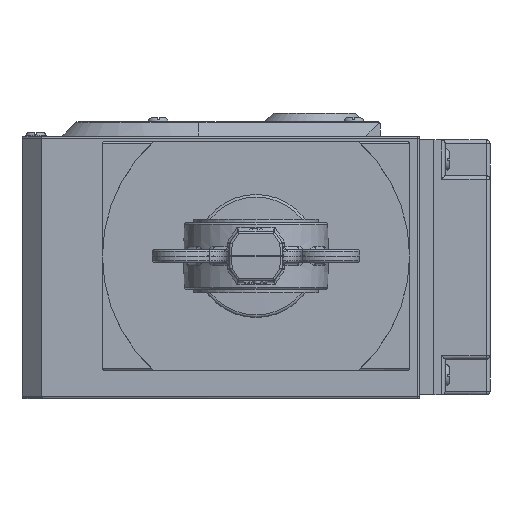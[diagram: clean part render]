
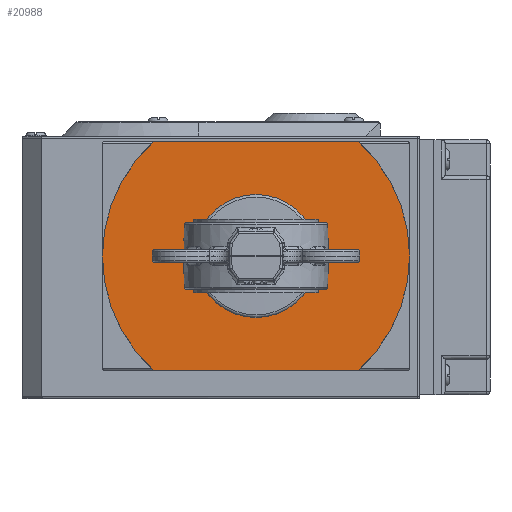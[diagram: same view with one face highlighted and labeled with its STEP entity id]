
A CAD part, front view. The second image highlights one B-rep face of the part: STEP entity #20988.
In plain terms, the highlighted planar face has unit normal (0, -1, 0).
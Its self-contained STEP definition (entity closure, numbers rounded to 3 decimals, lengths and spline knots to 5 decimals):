
#1700=CIRCLE('',#22537,0.084);
#1955=CIRCLE('',#23171,0.084);
#1956=CIRCLE('',#23173,0.001);
#1957=CIRCLE('',#23174,0.001);
#1958=CIRCLE('',#23175,0.001);
#1959=CIRCLE('',#23176,0.001);
#3078=LINE('',#57321,#4557);
#3092=LINE('',#57353,#4571);
#4557=VECTOR('',#26835,0.11143);
#4571=VECTOR('',#26859,0.11143);
#5635=PLANE('',#23172);
#6837=FACE_OUTER_BOUND('',#8116,.T.);
#8116=EDGE_LOOP('',(#19693,#19694,#19695,#19696,#19697,#19698,#19699,#19700));
#9998=VERTEX_POINT('',#57318);
#9999=VERTEX_POINT('',#57320);
#10011=VERTEX_POINT('',#57350);
#10012=VERTEX_POINT('',#57352);
#10016=VERTEX_POINT('',#57365);
#10017=VERTEX_POINT('',#57366);
#10574=VERTEX_POINT('',#61007);
#10575=VERTEX_POINT('',#61008);
#12709=EDGE_CURVE('',#9999,#9998,#3078,.T.);
#12725=EDGE_CURVE('',#10012,#10011,#3092,.T.);
#12732=EDGE_CURVE('',#10016,#10017,#1700,.T.);
#13618=EDGE_CURVE('',#10574,#10575,#1955,.T.);
#13623=EDGE_CURVE('',#10011,#10574,#1956,.F.);
#13624=EDGE_CURVE('',#10575,#9999,#1957,.F.);
#13625=EDGE_CURVE('',#9998,#10016,#1958,.F.);
#13626=EDGE_CURVE('',#10017,#10012,#1959,.F.);
#19693=ORIENTED_EDGE('',*,*,#12725,.T.);
#19694=ORIENTED_EDGE('',*,*,#13623,.T.);
#19695=ORIENTED_EDGE('',*,*,#13618,.T.);
#19696=ORIENTED_EDGE('',*,*,#13624,.T.);
#19697=ORIENTED_EDGE('',*,*,#12709,.T.);
#19698=ORIENTED_EDGE('',*,*,#13625,.T.);
#19699=ORIENTED_EDGE('',*,*,#12732,.T.);
#19700=ORIENTED_EDGE('',*,*,#13626,.T.);
#20988=ADVANCED_FACE('',(#6837),#5635,.F.);
#22537=AXIS2_PLACEMENT_3D('',#57367,#26872,#26873);
#23171=AXIS2_PLACEMENT_3D('',#61009,#28622,#28623);
#23172=AXIS2_PLACEMENT_3D('',#61026,#28626,#28627);
#23173=AXIS2_PLACEMENT_3D('',#61027,#28628,#28629);
#23174=AXIS2_PLACEMENT_3D('',#61028,#28630,#28631);
#23175=AXIS2_PLACEMENT_3D('',#61029,#28632,#28633);
#23176=AXIS2_PLACEMENT_3D('',#61030,#28634,#28635);
#26835=DIRECTION('',(1.,0.,0.));
#26859=DIRECTION('',(-1.,0.,0.));
#26872=DIRECTION('center_axis',(0.,-1.,0.));
#26873=DIRECTION('ref_axis',(1.,0.,0.));
#28622=DIRECTION('center_axis',(0.,-1.,0.));
#28623=DIRECTION('ref_axis',(1.,0.,0.));
#28626=DIRECTION('center_axis',(0.,1.,0.));
#28627=DIRECTION('ref_axis',(0.,0.,1.));
#28628=DIRECTION('center_axis',(0.,1.,0.));
#28629=DIRECTION('ref_axis',(-1.,0.,0.));
#28630=DIRECTION('center_axis',(0.,1.,0.));
#28631=DIRECTION('ref_axis',(-1.,0.,0.));
#28632=DIRECTION('center_axis',(0.,1.,0.));
#28633=DIRECTION('ref_axis',(-1.,0.,0.));
#28634=DIRECTION('center_axis',(0.,1.,0.));
#28635=DIRECTION('ref_axis',(-1.,0.,0.));
#57318=CARTESIAN_POINT('',(0.05572,-0.10875,-0.06252));
#57320=CARTESIAN_POINT('',(-0.05572,-0.10875,-0.06252));
#57321=CARTESIAN_POINT('',(-0.05572,-0.10875,-0.06252));
#57350=CARTESIAN_POINT('',(-0.05572,-0.10875,0.06252));
#57352=CARTESIAN_POINT('',(0.05572,-0.10875,0.06252));
#57353=CARTESIAN_POINT('',(0.05572,-0.10875,0.06252));
#57365=CARTESIAN_POINT('',(0.05639,-0.10875,-0.06226));
#57366=CARTESIAN_POINT('',(0.05639,-0.10875,0.06226));
#57367=CARTESIAN_POINT('Origin',(0.,-0.10875,0.));
#61007=CARTESIAN_POINT('',(-0.05639,-0.10875,0.06226));
#61008=CARTESIAN_POINT('',(-0.05639,-0.10875,-0.06226));
#61009=CARTESIAN_POINT('Origin',(0.,-0.10875,0.));
#61026=CARTESIAN_POINT('Origin',(0.,-0.10875,0.));
#61027=CARTESIAN_POINT('Origin',(-0.05572,-0.10875,0.06152));
#61028=CARTESIAN_POINT('Origin',(-0.05572,-0.10875,-0.06152));
#61029=CARTESIAN_POINT('Origin',(0.05572,-0.10875,-0.06152));
#61030=CARTESIAN_POINT('Origin',(0.05572,-0.10875,0.06152));
